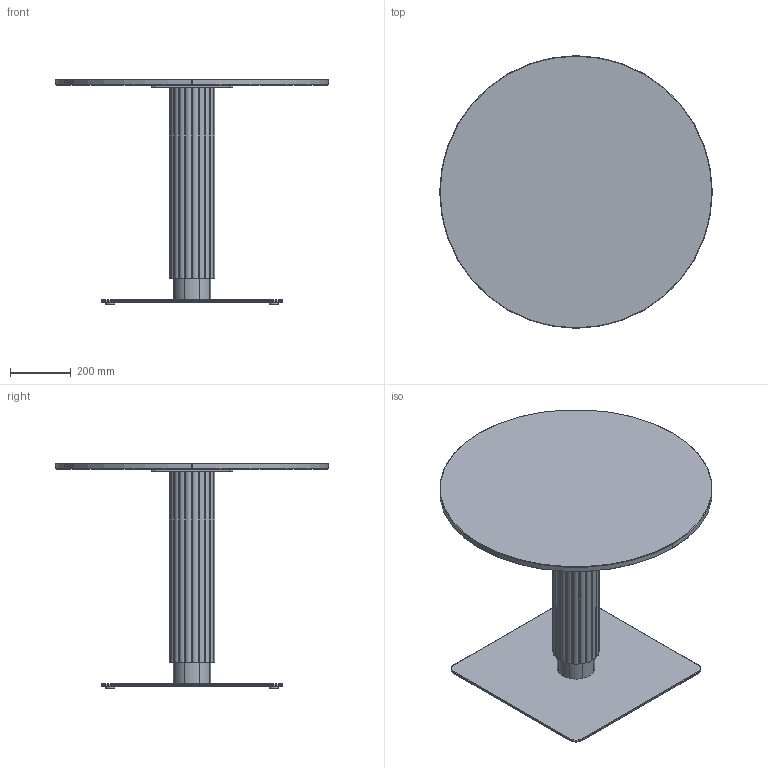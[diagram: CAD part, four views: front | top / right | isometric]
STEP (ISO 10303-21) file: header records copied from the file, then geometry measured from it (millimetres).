
FILE_DESCRIPTION( ('This file contains a STEP AP42 implementation' ,'as created by ZW3D STEP Interface translator.') ,'2;1' );
FILE_NAME( 'God - B_Carré - F1 - M1 - 900 x 900 x 750.stp' ,'24 912. 9 236', (''), ('ZWCAD Software Co.'), 'Version 1.0', 'ZW3D to STEP translator', '' );
FILE_SCHEMA(('AUTOMOTIVE_DESIGN { 1 0 10303 214 1 1 1 1 }'));
Length unit declared in the file: millimetre
Products named in the file (16): 0; PIED BISTROT PARAMETRIQUE_; CROIX ACIER 370 V.02_; CRX-X370-02_; SOCLE ACIER L 600x600 V.02_; SCL-R600-02_; PLA-R30A-01_; PLA-R30A-01; COLONNE ACIER Ø48.5 V.02_; TUB-D048-02_; PLA-R48A-01_; Colonne GODRON H700_; WUERTH 0276063020 Euro-screw 6.3x2 Verzinkt_; PLATEAU BISTROT PARAMETRIQUE_; insert_m6_13_; insert_m6_13
Assembly tree (23 placements, depth 3):
  0
  PIED BISTROT PARAMETRIQUE_
    CROIX ACIER 370 V.02_
      CRX-X370-02_
    SOCLE ACIER L 600x600 V.02_
      SCL-R600-02_
      PLA-R30A-01_
      PLA-R30A-01  x3
    COLONNE ACIER Ø48.5 V.02_
      TUB-D048-02_
      PLA-R48A-01_  x2
    Colonne GODRON H700_
    WUERTH 0276063020 Euro-screw 6.3x2 Verzinkt_
    PLATEAU BISTROT PARAMETRIQUE_
      insert_m6_13_  x2
      insert_m6_13  x6
Bounding box: 900 x 900 x 744 mm (x, y, z)
Volume: 26654007.2 mm3; surface area: 3475967.6 mm2
Topology: 27 solids, 27 shells, 669 faces, 1662 edges, 1062 vertices
Faces by surface type: plane 302, cylinder 192, bspline 121, cone 53, torus 1
Full cylindrical faces by diameter (mm): 4.88 x1, 6 x8, 6.3 x1, 8 x45, 12 x2, 14 x2, 30 x4, 44.5 x3, 48.5 x1
Entity records: 17854 total; most frequent: CARTESIAN_POINT 4547, ORIENTED_EDGE 2472, DIRECTION 2449, EDGE_CURVE 1236, AXIS2_PLACEMENT_3D 862, VERTEX_POINT 796, VECTOR 725, LINE 725
